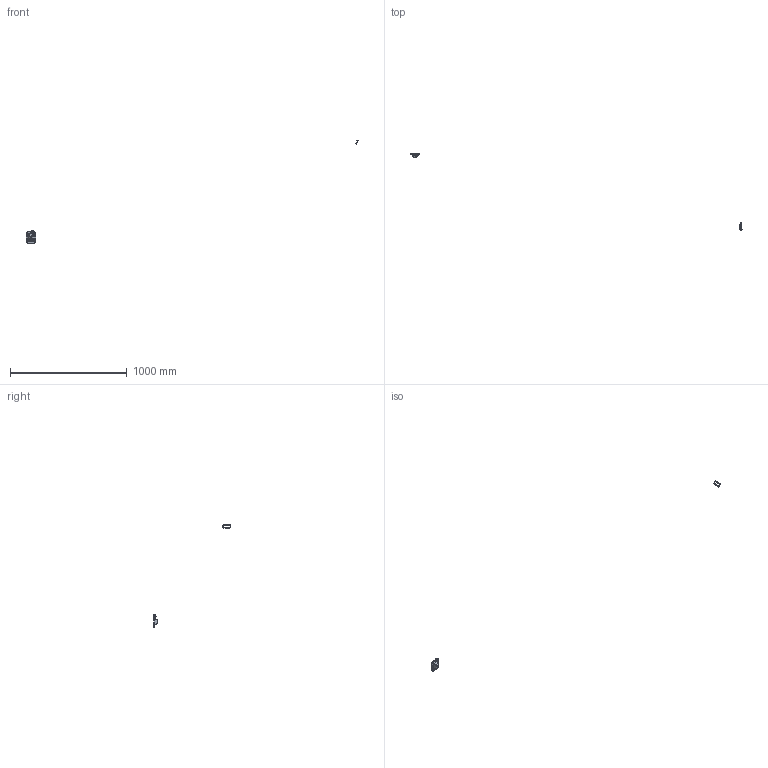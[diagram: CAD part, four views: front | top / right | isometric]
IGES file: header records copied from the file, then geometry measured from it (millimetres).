
Start section: START RECORD GO HERE
Bounding box: 2840.1 x 664.55 x 880.96 mm (x, y, z)
Topology: 0 solids, 0 shells, 316 faces, 2640 edges, 3717 vertices
Faces by surface type: extrusion 155, revolution 73, bspline 70, plane 18
